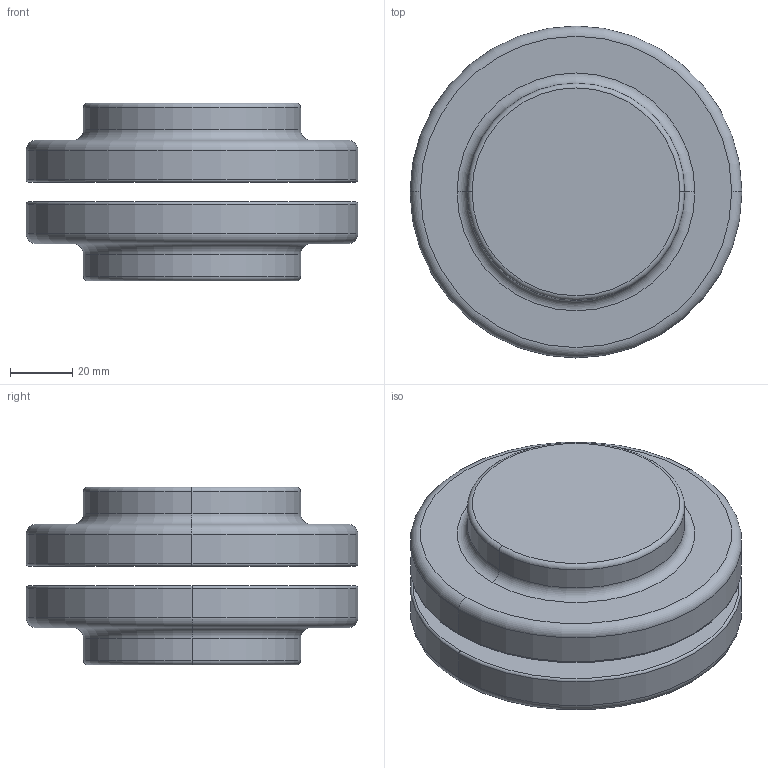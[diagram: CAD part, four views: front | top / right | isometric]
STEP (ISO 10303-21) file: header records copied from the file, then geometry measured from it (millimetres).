
FILE_DESCRIPTION (( 'STEP AP214' ), '1' );
FILE_NAME ('mobac_2x MTD-8 (ohne Bohrung).STEP', '2023-05-09T08:10:35', ( '' ), ( '' ), 'SwSTEP 2.0', 'SolidWorks 2022', '' );
FILE_SCHEMA (( 'AUTOMOTIVE_DESIGN' ));
Length unit declared in the file: millimetre
Products named in the file (1): mobac_2x MTD-8 (ohne Bohrung)
Bounding box: 106.68 x 106.68 x 57.15 mm (x, y, z)
Volume: 331349.6 mm3; surface area: 47935.3 mm2
Topology: 2 solids, 2 shells, 30 faces, 56 edges, 32 vertices
Faces by surface type: torus 16, cylinder 8, plane 6
Entity records: 803 total; most frequent: DIRECTION 166, CARTESIAN_POINT 119, ORIENTED_EDGE 112, AXIS2_PLACEMENT_3D 79, EDGE_CURVE 56, CIRCLE 48, EDGE_LOOP 32, VERTEX_POINT 32
